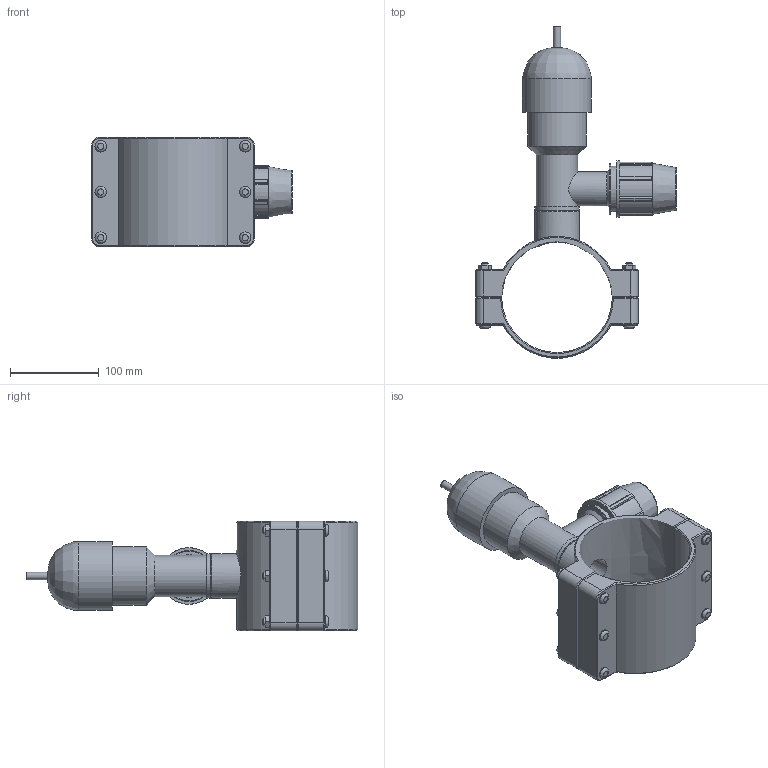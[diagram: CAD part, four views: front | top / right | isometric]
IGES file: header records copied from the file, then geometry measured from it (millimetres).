
Global section: file name: 186800125032.ipt; native system: Autodesk Inventor 2015; preprocessor: unknown; author: KIM; date: 20170618.094028; units: millimetre
Bounding box: 227 x 375 x 124 mm (x, y, z)
Volume: 1357868.2 mm3; surface area: 239619.9 mm2
Topology: 1 solids, 1 shells, 252 faces, 623 edges, 405 vertices
Faces by surface type: plane 151, cylinder 49, cone 31, revolution 21
Full cylindrical faces by diameter (mm): 8 x6, 8.19 x1, 13 x12, 38.4 x1, 38.952 x1, 46.742 x1, 50.638 x2, 51.2 x1, 57.6 x1, 64 x1, 66.218 x1, 77.904 x1
